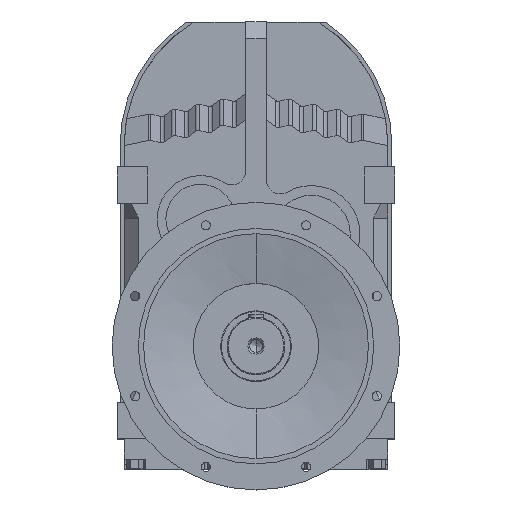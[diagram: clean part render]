
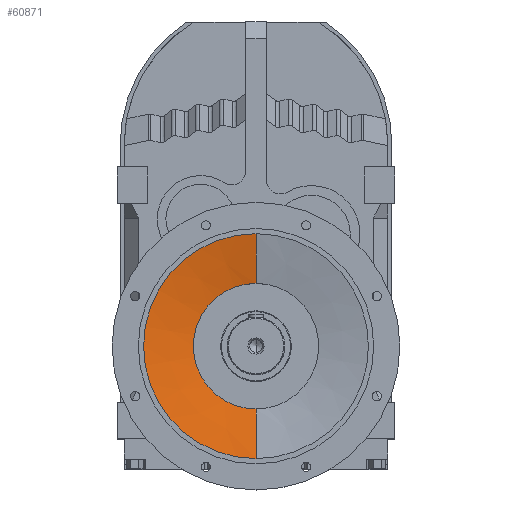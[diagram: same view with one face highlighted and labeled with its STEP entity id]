
A CAD part, top view. The second image highlights one B-rep face of the part: STEP entity #60871.
In plain terms, the highlighted conical face has half-angle 78.98 degrees and reference radius 215 mm.
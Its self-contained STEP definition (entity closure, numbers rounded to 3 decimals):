
#60508 = CYLINDRICAL_SURFACE('',#60509,215.);
#60509 = AXIS2_PLACEMENT_3D('',#60510,#60511,#60512);
#60510 = CARTESIAN_POINT('',(0.,-382.6,0.));
#60511 = DIRECTION('',(0.,0.,-1.));
#60512 = DIRECTION('',(0.,1.,0.));
#60575 = CYLINDRICAL_SURFACE('',#60576,120.);
#60576 = AXIS2_PLACEMENT_3D('',#60577,#60578,#60579);
#60577 = CARTESIAN_POINT('',(0.,-382.6,0.));
#60578 = DIRECTION('',(0.,0.,-1.));
#60579 = DIRECTION('',(0.,1.,0.));
#60591 = VERTEX_POINT('',#60592);
#60592 = CARTESIAN_POINT('',(0.,-167.6,414.));
#60611 = EDGE_CURVE('',#60612,#60591,#60614,.T.);
#60612 = VERTEX_POINT('',#60613);
#60613 = CARTESIAN_POINT('',(0.,-597.6,414.));
#60614 = SURFACE_CURVE('',#60615,(#60620,#60626),.PCURVE_S1.);
#60615 = CIRCLE('',#60616,215.);
#60616 = AXIS2_PLACEMENT_3D('',#60617,#60618,#60619);
#60617 = CARTESIAN_POINT('',(0.,-382.6,414.));
#60618 = DIRECTION('',(0.,0.,-1.));
#60619 = DIRECTION('',(0.,1.,0.));
#60620 = PCURVE('',#60508,#60621);
#60621 = DEFINITIONAL_REPRESENTATION('',(#60622),#60625);
#60622 = B_SPLINE_CURVE_WITH_KNOTS('',1,(#60623,#60624),.UNSPECIFIED.,
  .F.,.F.,(2,2),(3.142,6.283),.PIECEWISE_BEZIER_KNOTS.);
#60623 = CARTESIAN_POINT('',(3.142,-414.));
#60624 = CARTESIAN_POINT('',(6.283,-414.));
#60625 = ( GEOMETRIC_REPRESENTATION_CONTEXT(2) 
PARAMETRIC_REPRESENTATION_CONTEXT() REPRESENTATION_CONTEXT('2D SPACE',''
  ) );
#60626 = PCURVE('',#60627,#60632);
#60627 = CONICAL_SURFACE('',#60628,215.,1.378);
#60628 = AXIS2_PLACEMENT_3D('',#60629,#60630,#60631);
#60629 = CARTESIAN_POINT('',(0.,-382.6,414.));
#60630 = DIRECTION('',(0.,0.,1.));
#60631 = DIRECTION('',(0.,-1.,0.));
#60632 = DEFINITIONAL_REPRESENTATION('',(#60633),#60659);
#60633 = B_SPLINE_CURVE_WITH_KNOTS('',3,(#60634,#60635,#60636,#60637,
    #60638,#60639,#60640,#60641,#60642,#60643,#60644,#60645,#60646,
    #60647,#60648,#60649,#60650,#60651,#60652,#60653,#60654,#60655,
    #60656,#60657,#60658),.UNSPECIFIED.,.F.,.F.,(4,1,1,1,1,1,1,1,1,1,1,1
    ,1,1,1,1,1,1,1,1,1,1,4),(3.142,3.284,3.427
    ,3.57,3.713,3.856,3.998,
    4.141,4.284,4.427,4.57,
    4.712,4.855,4.998,5.141,
    5.284,5.426,5.569,5.712,
    5.855,5.998,6.14,6.283),
  .QUASI_UNIFORM_KNOTS.);
#60634 = CARTESIAN_POINT('',(6.283,0.));
#60635 = CARTESIAN_POINT('',(6.236,0.));
#60636 = CARTESIAN_POINT('',(6.14,0.));
#60637 = CARTESIAN_POINT('',(5.998,0.));
#60638 = CARTESIAN_POINT('',(5.855,0.));
#60639 = CARTESIAN_POINT('',(5.712,0.));
#60640 = CARTESIAN_POINT('',(5.569,0.));
#60641 = CARTESIAN_POINT('',(5.426,0.));
#60642 = CARTESIAN_POINT('',(5.284,0.));
#60643 = CARTESIAN_POINT('',(5.141,0.));
#60644 = CARTESIAN_POINT('',(4.998,0.));
#60645 = CARTESIAN_POINT('',(4.855,0.));
#60646 = CARTESIAN_POINT('',(4.712,0.));
#60647 = CARTESIAN_POINT('',(4.57,0.));
#60648 = CARTESIAN_POINT('',(4.427,0.));
#60649 = CARTESIAN_POINT('',(4.284,0.));
#60650 = CARTESIAN_POINT('',(4.141,0.));
#60651 = CARTESIAN_POINT('',(3.998,0.));
#60652 = CARTESIAN_POINT('',(3.856,0.));
#60653 = CARTESIAN_POINT('',(3.713,0.));
#60654 = CARTESIAN_POINT('',(3.57,0.));
#60655 = CARTESIAN_POINT('',(3.427,0.));
#60656 = CARTESIAN_POINT('',(3.284,0.));
#60657 = CARTESIAN_POINT('',(3.189,0.));
#60658 = CARTESIAN_POINT('',(3.142,0.));
#60659 = ( GEOMETRIC_REPRESENTATION_CONTEXT(2) 
PARAMETRIC_REPRESENTATION_CONTEXT() REPRESENTATION_CONTEXT('2D SPACE',''
  ) );
#60698 = CONICAL_SURFACE('',#60699,215.,1.378);
#60699 = AXIS2_PLACEMENT_3D('',#60700,#60701,#60702);
#60700 = CARTESIAN_POINT('',(0.,-382.6,414.));
#60701 = DIRECTION('',(0.,0.,1.));
#60702 = DIRECTION('',(0.,-1.,0.));
#60737 = EDGE_CURVE('',#60738,#60740,#60742,.T.);
#60738 = VERTEX_POINT('',#60739);
#60739 = CARTESIAN_POINT('',(0.,-502.6,395.5));
#60740 = VERTEX_POINT('',#60741);
#60741 = CARTESIAN_POINT('',(0.,-262.6,395.5));
#60742 = SURFACE_CURVE('',#60743,(#60748,#60754),.PCURVE_S1.);
#60743 = CIRCLE('',#60744,120.);
#60744 = AXIS2_PLACEMENT_3D('',#60745,#60746,#60747);
#60745 = CARTESIAN_POINT('',(0.,-382.6,395.5));
#60746 = DIRECTION('',(0.,0.,-1.));
#60747 = DIRECTION('',(0.,1.,0.));
#60748 = PCURVE('',#60575,#60749);
#60749 = DEFINITIONAL_REPRESENTATION('',(#60750),#60753);
#60750 = B_SPLINE_CURVE_WITH_KNOTS('',1,(#60751,#60752),.UNSPECIFIED.,
  .F.,.F.,(2,2),(3.142,6.283),.PIECEWISE_BEZIER_KNOTS.);
#60751 = CARTESIAN_POINT('',(3.142,-395.5));
#60752 = CARTESIAN_POINT('',(6.283,-395.5));
#60753 = ( GEOMETRIC_REPRESENTATION_CONTEXT(2) 
PARAMETRIC_REPRESENTATION_CONTEXT() REPRESENTATION_CONTEXT('2D SPACE',''
  ) );
#60754 = PCURVE('',#60627,#60755);
#60755 = DEFINITIONAL_REPRESENTATION('',(#60756),#60782);
#60756 = B_SPLINE_CURVE_WITH_KNOTS('',3,(#60757,#60758,#60759,#60760,
    #60761,#60762,#60763,#60764,#60765,#60766,#60767,#60768,#60769,
    #60770,#60771,#60772,#60773,#60774,#60775,#60776,#60777,#60778,
    #60779,#60780,#60781),.UNSPECIFIED.,.F.,.F.,(4,1,1,1,1,1,1,1,1,1,1,1
    ,1,1,1,1,1,1,1,1,1,1,4),(3.142,3.284,3.427
    ,3.57,3.713,3.856,3.998,
    4.141,4.284,4.427,4.57,
    4.712,4.855,4.998,5.141,
    5.284,5.426,5.569,5.712,
    5.855,5.998,6.14,6.283),
  .QUASI_UNIFORM_KNOTS.);
#60757 = CARTESIAN_POINT('',(6.283,-18.5));
#60758 = CARTESIAN_POINT('',(6.236,-18.5));
#60759 = CARTESIAN_POINT('',(6.14,-18.5));
#60760 = CARTESIAN_POINT('',(5.998,-18.5));
#60761 = CARTESIAN_POINT('',(5.855,-18.5));
#60762 = CARTESIAN_POINT('',(5.712,-18.5));
#60763 = CARTESIAN_POINT('',(5.569,-18.5));
#60764 = CARTESIAN_POINT('',(5.426,-18.5));
#60765 = CARTESIAN_POINT('',(5.284,-18.5));
#60766 = CARTESIAN_POINT('',(5.141,-18.5));
#60767 = CARTESIAN_POINT('',(4.998,-18.5));
#60768 = CARTESIAN_POINT('',(4.855,-18.5));
#60769 = CARTESIAN_POINT('',(4.712,-18.5));
#60770 = CARTESIAN_POINT('',(4.57,-18.5));
#60771 = CARTESIAN_POINT('',(4.427,-18.5));
#60772 = CARTESIAN_POINT('',(4.284,-18.5));
#60773 = CARTESIAN_POINT('',(4.141,-18.5));
#60774 = CARTESIAN_POINT('',(3.998,-18.5));
#60775 = CARTESIAN_POINT('',(3.856,-18.5));
#60776 = CARTESIAN_POINT('',(3.713,-18.5));
#60777 = CARTESIAN_POINT('',(3.57,-18.5));
#60778 = CARTESIAN_POINT('',(3.427,-18.5));
#60779 = CARTESIAN_POINT('',(3.284,-18.5));
#60780 = CARTESIAN_POINT('',(3.189,-18.5));
#60781 = CARTESIAN_POINT('',(3.142,-18.5));
#60782 = ( GEOMETRIC_REPRESENTATION_CONTEXT(2) 
PARAMETRIC_REPRESENTATION_CONTEXT() REPRESENTATION_CONTEXT('2D SPACE',''
  ) );
#60871 = ADVANCED_FACE('',(#60872),#60627,.F.);
#60872 = FACE_BOUND('',#60873,.F.);
#60873 = EDGE_LOOP('',(#60874,#60875,#60894,#60895));
#60874 = ORIENTED_EDGE('',*,*,#60737,.F.);
#60875 = ORIENTED_EDGE('',*,*,#60876,.T.);
#60876 = EDGE_CURVE('',#60738,#60612,#60877,.T.);
#60877 = SURFACE_CURVE('',#60878,(#60882,#60888),.PCURVE_S1.);
#60878 = LINE('',#60879,#60880);
#60879 = CARTESIAN_POINT('',(0.,-597.6,414.));
#60880 = VECTOR('',#60881,1.);
#60881 = DIRECTION('',(0.,-0.982,0.191));
#60882 = PCURVE('',#60627,#60883);
#60883 = DEFINITIONAL_REPRESENTATION('',(#60884),#60887);
#60884 = B_SPLINE_CURVE_WITH_KNOTS('',1,(#60885,#60886),.UNSPECIFIED.,
  .F.,.F.,(2,2),(-96.785,0.),
  .PIECEWISE_BEZIER_KNOTS.);
#60885 = CARTESIAN_POINT('',(6.283,-18.5));
#60886 = CARTESIAN_POINT('',(6.283,0.));
#60887 = ( GEOMETRIC_REPRESENTATION_CONTEXT(2) 
PARAMETRIC_REPRESENTATION_CONTEXT() REPRESENTATION_CONTEXT('2D SPACE',''
  ) );
#60888 = PCURVE('',#60698,#60889);
#60889 = DEFINITIONAL_REPRESENTATION('',(#60890),#60893);
#60890 = B_SPLINE_CURVE_WITH_KNOTS('',1,(#60891,#60892),.UNSPECIFIED.,
  .F.,.F.,(2,2),(-96.785,0.),
  .PIECEWISE_BEZIER_KNOTS.);
#60891 = CARTESIAN_POINT('',(0.,-18.5));
#60892 = CARTESIAN_POINT('',(0.,0.));
#60893 = ( GEOMETRIC_REPRESENTATION_CONTEXT(2) 
PARAMETRIC_REPRESENTATION_CONTEXT() REPRESENTATION_CONTEXT('2D SPACE',''
  ) );
#60894 = ORIENTED_EDGE('',*,*,#60611,.T.);
#60895 = ORIENTED_EDGE('',*,*,#60896,.F.);
#60896 = EDGE_CURVE('',#60740,#60591,#60897,.T.);
#60897 = SURFACE_CURVE('',#60898,(#60902,#60908),.PCURVE_S1.);
#60898 = LINE('',#60899,#60900);
#60899 = CARTESIAN_POINT('',(0.,-167.6,414.));
#60900 = VECTOR('',#60901,1.);
#60901 = DIRECTION('',(0.,0.982,0.191)
  );
#60902 = PCURVE('',#60627,#60903);
#60903 = DEFINITIONAL_REPRESENTATION('',(#60904),#60907);
#60904 = B_SPLINE_CURVE_WITH_KNOTS('',1,(#60905,#60906),.UNSPECIFIED.,
  .F.,.F.,(2,2),(-96.785,0.),
  .PIECEWISE_BEZIER_KNOTS.);
#60905 = CARTESIAN_POINT('',(3.142,-18.5));
#60906 = CARTESIAN_POINT('',(3.142,0.));
#60907 = ( GEOMETRIC_REPRESENTATION_CONTEXT(2) 
PARAMETRIC_REPRESENTATION_CONTEXT() REPRESENTATION_CONTEXT('2D SPACE',''
  ) );
#60908 = PCURVE('',#60698,#60909);
#60909 = DEFINITIONAL_REPRESENTATION('',(#60910),#60913);
#60910 = B_SPLINE_CURVE_WITH_KNOTS('',1,(#60911,#60912),.UNSPECIFIED.,
  .F.,.F.,(2,2),(-96.785,0.),
  .PIECEWISE_BEZIER_KNOTS.);
#60911 = CARTESIAN_POINT('',(3.142,-18.5));
#60912 = CARTESIAN_POINT('',(3.142,0.));
#60913 = ( GEOMETRIC_REPRESENTATION_CONTEXT(2) 
PARAMETRIC_REPRESENTATION_CONTEXT() REPRESENTATION_CONTEXT('2D SPACE',''
  ) );
